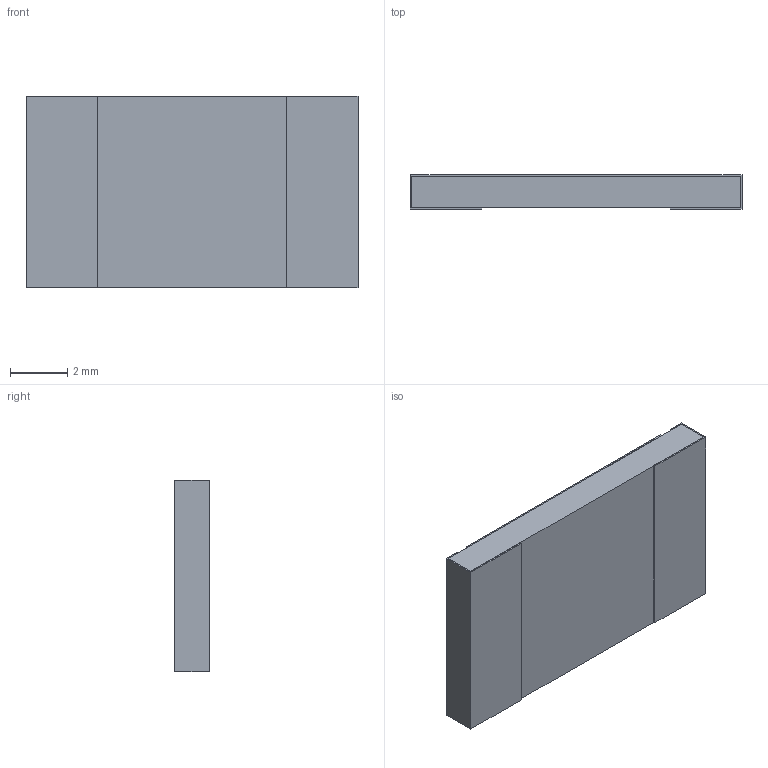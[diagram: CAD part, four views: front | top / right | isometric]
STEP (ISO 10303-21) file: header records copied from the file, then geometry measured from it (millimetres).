
FILE_DESCRIPTION(('FreeCAD Model'),'2;1');
FILE_NAME('Open CASCADE Shape Model','2025-04-02T10:57:20',(''),(''), 'Open CASCADE STEP processor 7.8','FreeCAD','Unknown');
FILE_SCHEMA(('AUTOMOTIVE_DESIGN { 1 0 10303 214 1 1 1 1 }'));
Length unit declared in the file: millimetre
Products named in the file (5): _5602R0FT; Body002; Body; Body (Mirror #1); Body001
Assembly tree (4 placements, depth 2):
  _5602R0FT
    Body002
    Body
    Body (Mirror #1)
    Body001
Bounding box: 11.6 x 1.2 x 6.7 mm (x, y, z)
Volume: 91 mm3; surface area: 448.3 mm2
Topology: 4 solids, 4 shells, 40 faces, 96 edges, 64 vertices
Faces by surface type: plane 40
Entity records: 1260 total; most frequent: CARTESIAN_POINT 205, ORIENTED_EDGE 192, DIRECTION 186, EDGE_CURVE 96, LINE 96, VECTOR 96, VERTEX_POINT 64, AXIS2_PLACEMENT_3D 45
